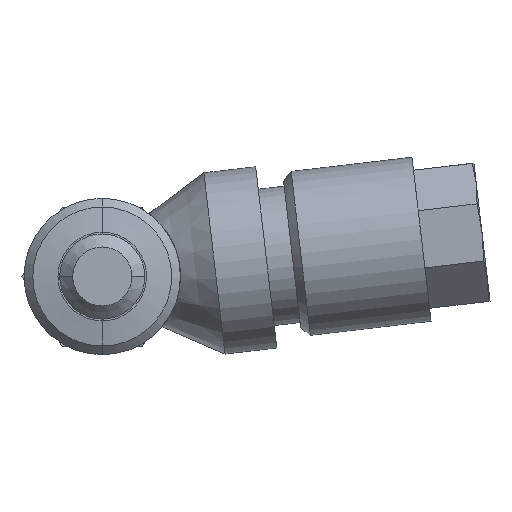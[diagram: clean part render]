
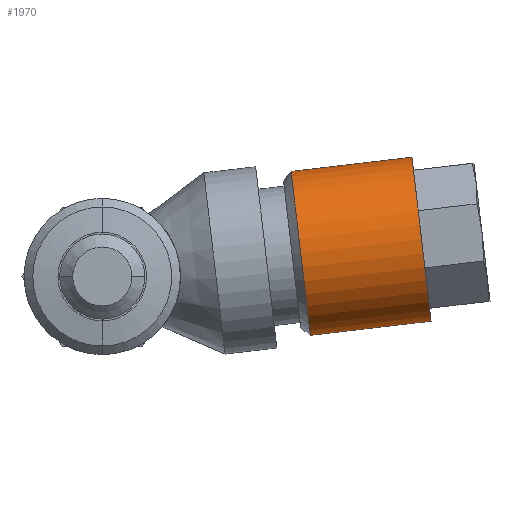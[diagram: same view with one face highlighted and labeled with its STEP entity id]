
A CAD part, front view. The second image highlights one B-rep face of the part: STEP entity #1970.
In plain terms, the highlighted cylindrical face has radius 4.75 mm (diameter 9.5 mm), a partial arc.
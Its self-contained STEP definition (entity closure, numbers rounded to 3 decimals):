
#8 = EDGE_CURVE ( 'NONE', #839, #64, #3139, .T. ) ;
#64 = VERTEX_POINT ( 'NONE', #3370 ) ;
#106 = VERTEX_POINT ( 'NONE', #4420 ) ;
#189 = DIRECTION ( 'NONE',  ( -0.044, -0.924, 0.38 ) ) ;
#423 = DIRECTION ( 'NONE',  ( -0.993, 0., -0.116 ) ) ;
#533 = DIRECTION ( 'NONE',  ( -0.993, 0., -0.116 ) ) ;
#554 = DIRECTION ( 'NONE',  ( -0.993, 0., -0.116 ) ) ;
#564 = AXIS2_PLACEMENT_3D ( 'NONE', #1241, #533, #2926 ) ;
#635 = EDGE_CURVE ( 'NONE', #3049, #106, #2071, .T. ) ;
#695 = EDGE_LOOP ( 'NONE', ( #3109, #3825, #1321, #3765 ) ) ;
#839 = VERTEX_POINT ( 'NONE', #2901 ) ;
#1159 = FACE_OUTER_BOUND ( 'NONE', #695, .T. ) ;
#1241 = CARTESIAN_POINT ( 'NONE',  ( 10.926, 10.75, 1.276 ) ) ;
#1321 = ORIENTED_EDGE ( 'NONE', *, *, #1808, .T. ) ;
#1397 = CARTESIAN_POINT ( 'NONE',  ( 10.375, 10.75, 5.994 ) ) ;
#1398 = AXIS2_PLACEMENT_3D ( 'NONE', #4348, #554, #189 ) ;
#1467 = EDGE_CURVE ( 'NONE', #3049, #839, #4221, .T. ) ;
#1512 = DIRECTION ( 'NONE',  ( -0.993, 0., -0.116 ) ) ;
#1808 = EDGE_CURVE ( 'NONE', #106, #64, #4056, .T. ) ;
#1970 = ADVANCED_FACE ( 'NONE', ( #1159 ), #3020, .T. ) ;
#1971 = CARTESIAN_POINT ( 'NONE',  ( 18.926, 10.75, -2.573 ) ) ;
#2071 = CIRCLE ( 'NONE', #3671, 4.75 ) ;
#2087 = CARTESIAN_POINT ( 'NONE',  ( 18.375, 10.75, 2.145 ) ) ;
#2433 = DIRECTION ( 'NONE',  ( -0.116, 0., 0.993 ) ) ;
#2481 = VECTOR ( 'NONE', #1512, 1000. ) ;
#2760 = DIRECTION ( 'NONE',  ( -0.993, 0., -0.116 ) ) ;
#2901 = CARTESIAN_POINT ( 'NONE',  ( 11.973, 10.75, -3.384 ) ) ;
#2917 = VECTOR ( 'NONE', #2760, 1000. ) ;
#2926 = DIRECTION ( 'NONE',  ( -0.116, 0., 0.993 ) ) ;
#3020 = CYLINDRICAL_SURFACE ( 'NONE', #564, 4.75 ) ;
#3049 = VERTEX_POINT ( 'NONE', #1971 ) ;
#3109 = ORIENTED_EDGE ( 'NONE', *, *, #1467, .F. ) ;
#3139 = CIRCLE ( 'NONE', #1398, 4.75 ) ;
#3189 = CARTESIAN_POINT ( 'NONE',  ( 11.477, 10.75, -3.442 ) ) ;
#3370 = CARTESIAN_POINT ( 'NONE',  ( 10.872, 10.75, 6.052 ) ) ;
#3671 = AXIS2_PLACEMENT_3D ( 'NONE', #2087, #423, #2433 ) ;
#3765 = ORIENTED_EDGE ( 'NONE', *, *, #8, .F. ) ;
#3825 = ORIENTED_EDGE ( 'NONE', *, *, #635, .T. ) ;
#4056 = LINE ( 'NONE', #1397, #2917 ) ;
#4221 = LINE ( 'NONE', #3189, #2481 ) ;
#4348 = CARTESIAN_POINT ( 'NONE',  ( 11.422, 10.75, 1.334 ) ) ;
#4420 = CARTESIAN_POINT ( 'NONE',  ( 17.824, 10.75, 6.863 ) ) ;
